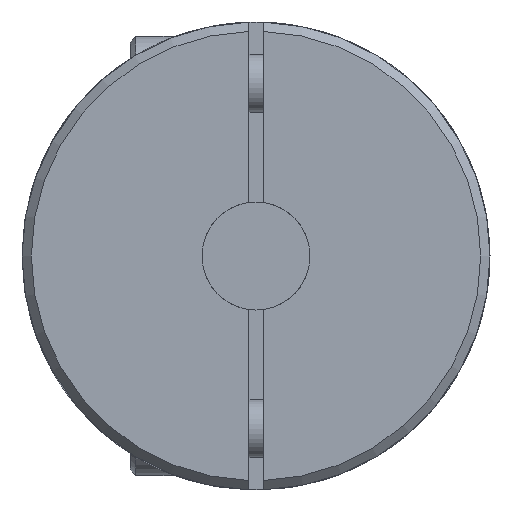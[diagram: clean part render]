
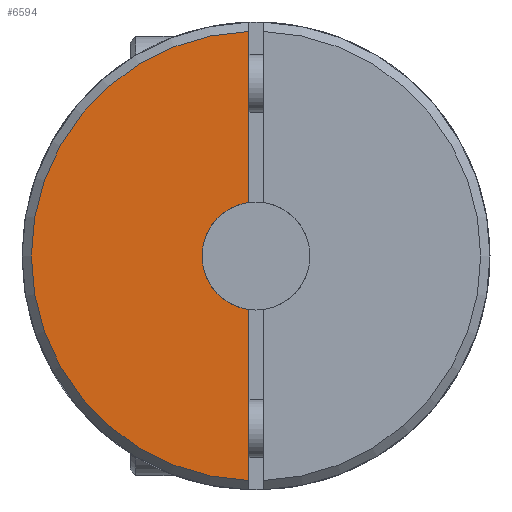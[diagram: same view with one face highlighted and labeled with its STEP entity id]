
A CAD part, left-side view. The second image highlights one B-rep face of the part: STEP entity #6594.
In plain terms, the highlighted planar face has unit normal (-1, 0, 0).
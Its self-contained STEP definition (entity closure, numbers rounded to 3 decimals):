
#736=CIRCLE('',#7076,7.5);
#780=CIRCLE('',#7144,31.2);
#1296=FACE_OUTER_BOUND('',#1725,.T.);
#1725=EDGE_LOOP('',(#4735,#4736,#4737,#4738));
#2199=LINE('',#10533,#2495);
#2222=LINE('',#10812,#2518);
#2495=VECTOR('',#8187,1000.);
#2518=VECTOR('',#8342,1000.);
#2823=VERTEX_POINT('',#10516);
#2825=VERTEX_POINT('',#10519);
#2830=VERTEX_POINT('',#10532);
#2885=VERTEX_POINT('',#10804);
#3507=EDGE_CURVE('',#2825,#2823,#736,.T.);
#3514=EDGE_CURVE('',#2830,#2825,#2199,.T.);
#3590=EDGE_CURVE('',#2830,#2885,#780,.T.);
#3593=EDGE_CURVE('',#2823,#2885,#2222,.T.);
#4735=ORIENTED_EDGE('',*,*,#3507,.T.);
#4736=ORIENTED_EDGE('',*,*,#3593,.T.);
#4737=ORIENTED_EDGE('',*,*,#3590,.F.);
#4738=ORIENTED_EDGE('',*,*,#3514,.T.);
#6424=PLANE('',#7146);
#6594=ADVANCED_FACE('',(#1296),#6424,.F.);
#7076=AXIS2_PLACEMENT_3D('',#10520,#8174,#8175);
#7144=AXIS2_PLACEMENT_3D('',#10805,#8336,#8337);
#7146=AXIS2_PLACEMENT_3D('',#10811,#8340,#8341);
#8174=DIRECTION('center_axis',(1.,0.,0.));
#8175=DIRECTION('ref_axis',(0.,0.,1.));
#8187=DIRECTION('',(0.,0.,1.));
#8336=DIRECTION('center_axis',(1.,0.,0.));
#8337=DIRECTION('ref_axis',(0.,0.,-1.));
#8340=DIRECTION('center_axis',(1.,0.,0.));
#8341=DIRECTION('ref_axis',(0.,0.,-1.));
#8342=DIRECTION('',(0.,0.,1.));
#10516=CARTESIAN_POINT('',(-139.5,1.,7.433));
#10519=CARTESIAN_POINT('',(-139.5,1.,-7.433));
#10520=CARTESIAN_POINT('Origin',(-139.5,0.,0.));
#10532=CARTESIAN_POINT('',(-139.5,1.,-31.184));
#10533=CARTESIAN_POINT('',(-139.5,1.,-32.485));
#10804=CARTESIAN_POINT('',(-139.5,1.,31.184));
#10805=CARTESIAN_POINT('Origin',(-139.5,0.,0.));
#10811=CARTESIAN_POINT('Origin',(-139.5,0.,0.));
#10812=CARTESIAN_POINT('',(-139.5,1.,-32.485));
